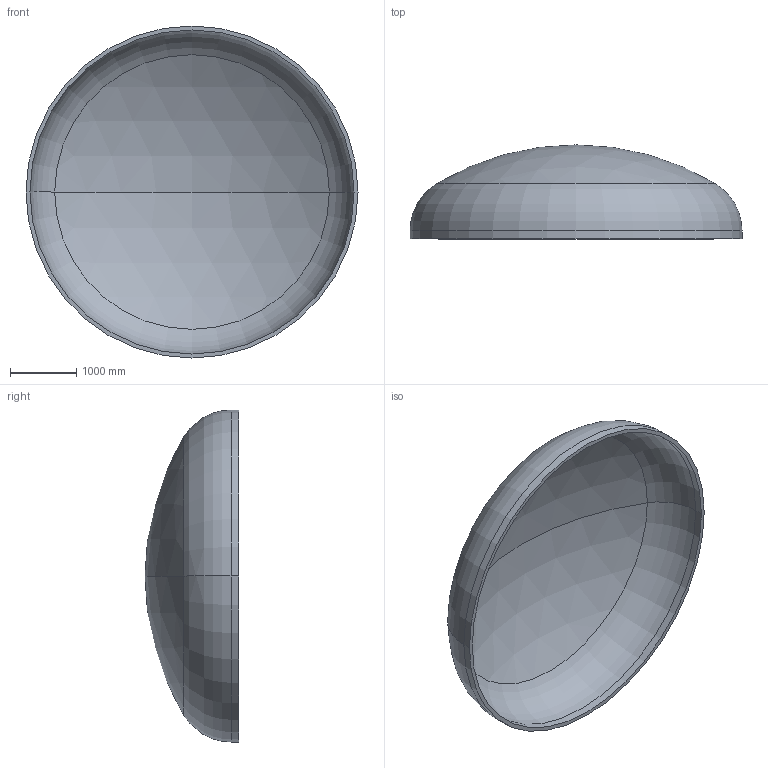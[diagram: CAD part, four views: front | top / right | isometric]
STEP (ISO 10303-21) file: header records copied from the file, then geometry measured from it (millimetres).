
FILE_DESCRIPTION (( 'STEP AP203' ), '1' );
FILE_NAME ('DIN 28013 Korbbogenform_-_Boden DIN 28013 - 5000 x 120 - I - s=60.step', '2016-07-02T00:39:33', ( '' ), ( '' ), 'SwSTEP 2.0', 'SolidWorks 2013', '' );
FILE_SCHEMA (( 'CONFIG_CONTROL_DESIGN' ));
Length unit declared in the file: millimetre
Products named in the file (1): DIN 28013 Korbbogenform_-_Boden DIN 28013 - 5000 x 120 - I - s=60
Bounding box: 5000 x 1415.22 x 5000 mm (x, y, z)
Volume: 1717704468.8 mm3; surface area: 58195502.2 mm2
Topology: 1 solids, 1 shells, 13 faces, 24 edges, 14 vertices
Faces by surface type: torus 4, cylinder 4, sphere 4, plane 1
Entity records: 407 total; most frequent: DIRECTION 72, CARTESIAN_POINT 52, ORIENTED_EDGE 48, AXIS2_PLACEMENT_3D 34, EDGE_CURVE 24, CIRCLE 20, EDGE_LOOP 14, VERTEX_POINT 14
